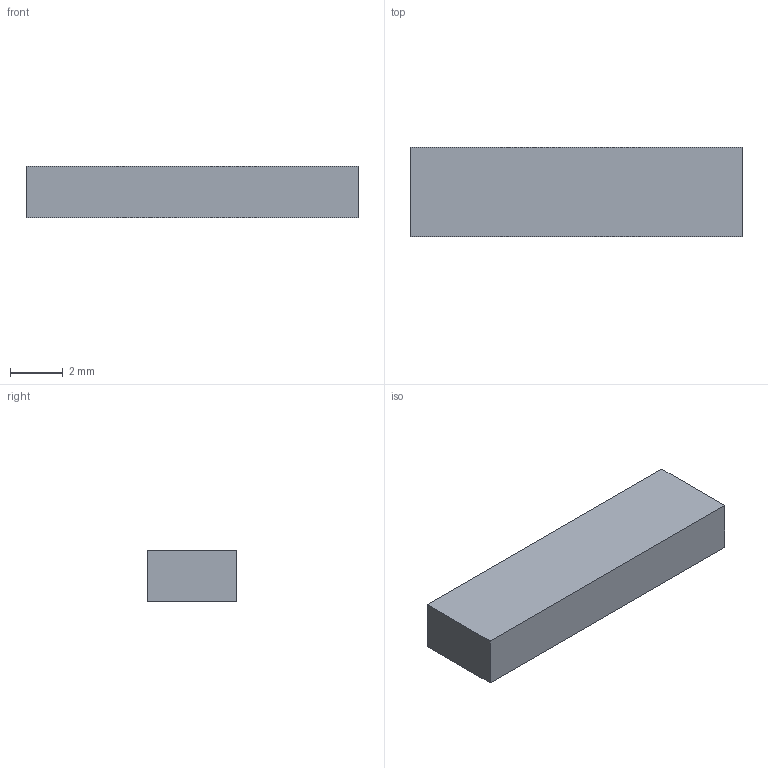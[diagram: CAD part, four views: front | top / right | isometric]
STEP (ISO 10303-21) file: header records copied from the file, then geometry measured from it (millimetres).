
FILE_DESCRIPTION(('Open CASCADE Model'),'2;1');
FILE_NAME('Open CASCADE Shape Model','2026-10-07T08:13:16',('Author'),( 'Open CASCADE'),'Open CASCADE STEP processor 7.9','Open CASCADE 7.9' ,'Unknown');
FILE_SCHEMA(('AUTOMOTIVE_DESIGN { 1 0 10303 214 1 1 1 1 }'));
Length unit declared in the file: millimetre
Products named in the file (1): Open CASCADE STEP translator 7.9 1
Bounding box: 12.6 x 3.38 x 1.95 mm (x, y, z)
Volume: 83 mm3; surface area: 147.5 mm2
Topology: 1 solids, 1 shells, 6 faces, 12 edges, 8 vertices
Faces by surface type: plane 6
Entity records: 322 total; most frequent: CARTESIAN_POINT 51, DIRECTION 50, LINE 36, VECTOR 36, ORIENTED_EDGE 24, PCURVE 24, DEFINITIONAL_REPRESENTATION 24, EDGE_CURVE 12
